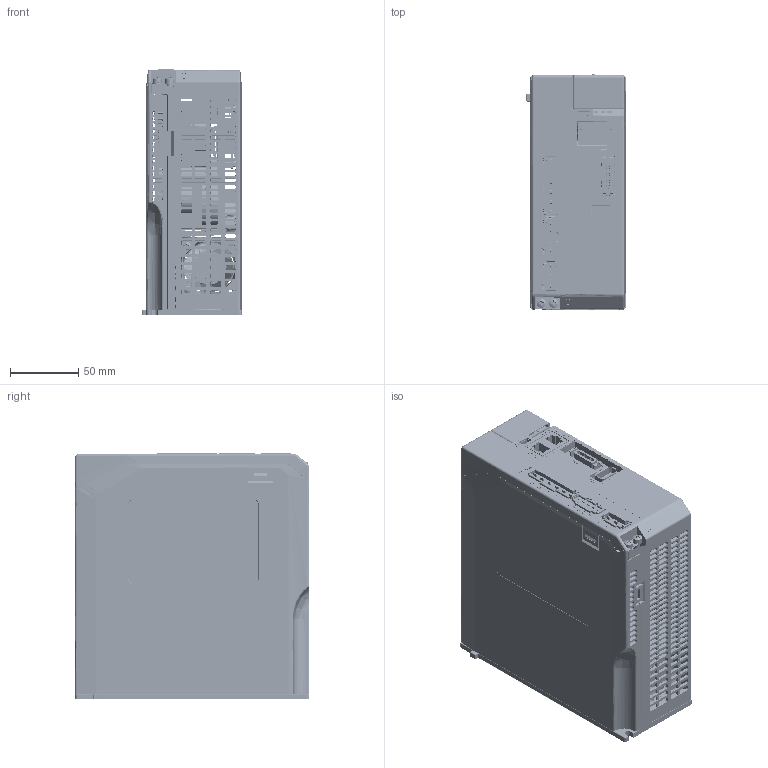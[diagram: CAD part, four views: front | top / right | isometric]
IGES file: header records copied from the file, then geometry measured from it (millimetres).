
Start section: SolidWorks IGES file using analytic representation for surfaces
Global section: file name: Z:\Products\Servo\Servo Drive\B5 & E5-S Drivers\UNITRONICS\200VAC ,Rated power:1.5kW~2KW EtherCAT\Assem1.IGS; native system: SolidWorks 2022; preprocessor: SolidWorks 2022; author: OfirZ; date: 240918.161205; units: millimetre
Bounding box: 73.05 x 172.3 x 180.9 mm (x, y, z)
Surface area: 530791.3 mm2 (no closed solid volume)
Topology: 0 solids, 0 shells, 20921 faces, 150437 edges, 149922 vertices
Faces by surface type: bspline 16782, revolution 4139
